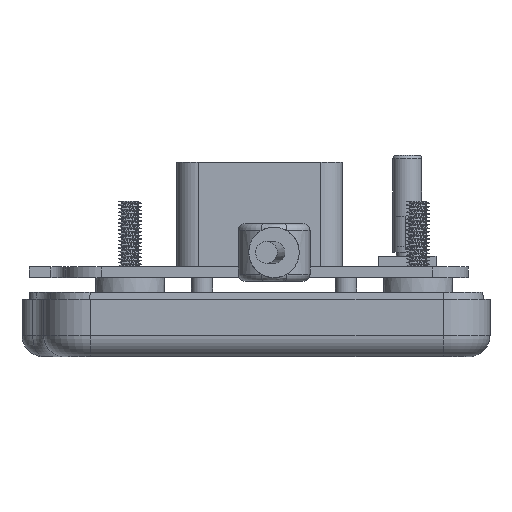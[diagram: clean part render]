
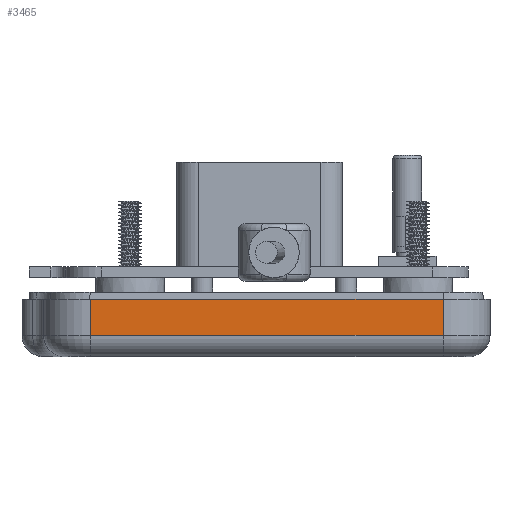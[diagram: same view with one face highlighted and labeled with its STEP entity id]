
A CAD part, front view. The second image highlights one B-rep face of the part: STEP entity #3465.
In plain terms, the highlighted planar face has unit normal (0, -1, 0).
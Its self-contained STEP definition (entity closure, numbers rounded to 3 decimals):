
#3465=ADVANCED_FACE('',(#4871),#4115,.T.);
#4115=PLANE('',#18173);
#4871=FACE_OUTER_BOUND('',#5893,.T.);
#5893=EDGE_LOOP('',(#9860,#9861,#9862,#9863));
#9860=ORIENTED_EDGE('',*,*,#13621,.T.);
#9861=ORIENTED_EDGE('',*,*,#13622,.T.);
#9862=ORIENTED_EDGE('',*,*,#13618,.T.);
#9863=ORIENTED_EDGE('',*,*,#13611,.T.);
#11590=VERTEX_POINT('',#61038);
#11591=VERTEX_POINT('',#61040);
#11596=VERTEX_POINT('',#61054);
#11598=VERTEX_POINT('',#61060);
#13611=EDGE_CURVE('',#11591,#11590,#15140,.T.);
#13618=EDGE_CURVE('',#11596,#11591,#15144,.T.);
#13621=EDGE_CURVE('',#11590,#11598,#15146,.T.);
#13622=EDGE_CURVE('',#11598,#11596,#15147,.T.);
#15140=LINE('',#61039,#16610);
#15144=LINE('',#61053,#16614);
#15146=LINE('',#61059,#16616);
#15147=LINE('',#61061,#16617);
#16610=VECTOR('',#22215,1.);
#16614=VECTOR('',#22229,1.);
#16616=VECTOR('',#22235,1.);
#16617=VECTOR('',#22236,1.);
#18173=AXIS2_PLACEMENT_3D('',#61062,#22237,#22238);
#22215=DIRECTION('',(-1.,0.,0.));
#22229=DIRECTION('',(0.,0.,1.));
#22235=DIRECTION('',(0.,0.,-1.));
#22236=DIRECTION('',(1.,0.,0.));
#22237=DIRECTION('',(0.,-1.,0.));
#22238=DIRECTION('',(0.,0.,1.));
#61038=CARTESIAN_POINT('',(-25.5,-35.,-5.));
#61039=CARTESIAN_POINT('',(35.,-35.,-5.));
#61040=CARTESIAN_POINT('',(23.5,-35.,-5.));
#61053=CARTESIAN_POINT('',(23.5,-35.,-5.));
#61054=CARTESIAN_POINT('',(23.5,-35.,-10.));
#61059=CARTESIAN_POINT('',(-25.5,-35.,-5.));
#61060=CARTESIAN_POINT('',(-25.5,-35.,-10.));
#61061=CARTESIAN_POINT('',(23.5,-35.,-10.));
#61062=CARTESIAN_POINT('',(35.,-35.,-5.));
